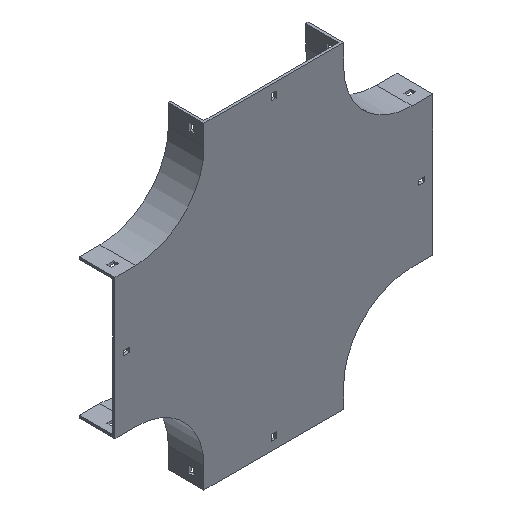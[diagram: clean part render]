
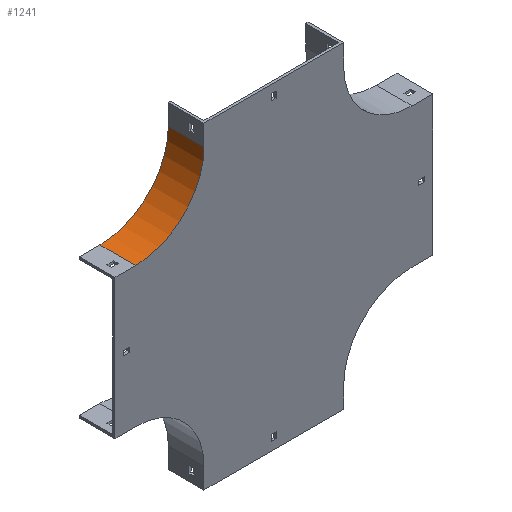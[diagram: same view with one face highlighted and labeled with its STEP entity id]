
A CAD part, isometric view. The second image highlights one B-rep face of the part: STEP entity #1241.
In plain terms, the highlighted cylindrical face has radius 100 mm (diameter 200 mm), a partial arc.
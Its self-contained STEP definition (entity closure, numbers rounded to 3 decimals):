
#340 = ORIENTED_EDGE ( 'NONE', *, *, #1845, .T. ) ;
#450 = VERTEX_POINT ( 'NONE', #572 ) ;
#533 = CARTESIAN_POINT ( 'NONE',  ( -404., 0., -100. ) ) ;
#572 = CARTESIAN_POINT ( 'NONE',  ( -404., 52., -100. ) ) ;
#629 = AXIS2_PLACEMENT_3D ( 'NONE', #1337, #2187, #2642 ) ;
#658 = CARTESIAN_POINT ( 'NONE',  ( -404., 0., 0. ) ) ;
#713 = CARTESIAN_POINT ( 'NONE',  ( -404., 52., 0. ) ) ;
#907 = VERTEX_POINT ( 'NONE', #2325 ) ;
#991 = CARTESIAN_POINT ( 'NONE',  ( -404., 52., -100. ) ) ;
#1029 = CIRCLE ( 'NONE', #1424, 100. ) ;
#1125 = ORIENTED_EDGE ( 'NONE', *, *, #2509, .F. ) ;
#1189 = EDGE_LOOP ( 'NONE', ( #340, #1281, #1125, #2350 ) ) ;
#1204 = LINE ( 'NONE', #991, #2467 ) ;
#1241 = ADVANCED_FACE ( 'NONE', ( #1765 ), #1555, .F. ) ;
#1281 = ORIENTED_EDGE ( 'NONE', *, *, #2612, .F. ) ;
#1337 = CARTESIAN_POINT ( 'NONE',  ( -404., 52., 0. ) ) ;
#1347 = DIRECTION ( 'NONE',  ( 0., 0., 1. ) ) ;
#1420 = DIRECTION ( 'NONE',  ( 0., -1., 0. ) ) ;
#1422 = CARTESIAN_POINT ( 'NONE',  ( -304., 52., 0. ) ) ;
#1424 = AXIS2_PLACEMENT_3D ( 'NONE', #658, #1677, #1446 ) ;
#1446 = DIRECTION ( 'NONE',  ( 0., 0., 1. ) ) ;
#1555 = CYLINDRICAL_SURFACE ( 'NONE', #629, 100. ) ;
#1567 = DIRECTION ( 'NONE',  ( 0., -1., 0. ) ) ;
#1627 = CARTESIAN_POINT ( 'NONE',  ( -304., 0., 0. ) ) ;
#1677 = DIRECTION ( 'NONE',  ( 0., -1., 0. ) ) ;
#1765 = FACE_OUTER_BOUND ( 'NONE', #1189, .T. ) ;
#1766 = CIRCLE ( 'NONE', #2156, 100. ) ;
#1821 = EDGE_CURVE ( 'NONE', #450, #2652, #1204, .T. ) ;
#1845 = EDGE_CURVE ( 'NONE', #2652, #2256, #1029, .T. ) ;
#1946 = VECTOR ( 'NONE', #2329, 1000. ) ;
#2156 = AXIS2_PLACEMENT_3D ( 'NONE', #713, #1567, #1347 ) ;
#2187 = DIRECTION ( 'NONE',  ( 0., -1., 0. ) ) ;
#2256 = VERTEX_POINT ( 'NONE', #1627 ) ;
#2325 = CARTESIAN_POINT ( 'NONE',  ( -304., 52., 0. ) ) ;
#2329 = DIRECTION ( 'NONE',  ( 0., -1., 0. ) ) ;
#2350 = ORIENTED_EDGE ( 'NONE', *, *, #1821, .T. ) ;
#2467 = VECTOR ( 'NONE', #1420, 1000. ) ;
#2509 = EDGE_CURVE ( 'NONE', #450, #907, #1766, .T. ) ;
#2557 = LINE ( 'NONE', #1422, #1946 ) ;
#2612 = EDGE_CURVE ( 'NONE', #907, #2256, #2557, .T. ) ;
#2642 = DIRECTION ( 'NONE',  ( 0., 0., -1. ) ) ;
#2652 = VERTEX_POINT ( 'NONE', #533 ) ;
